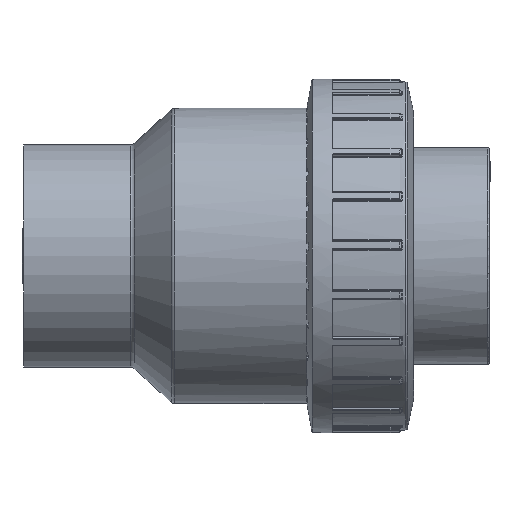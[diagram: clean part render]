
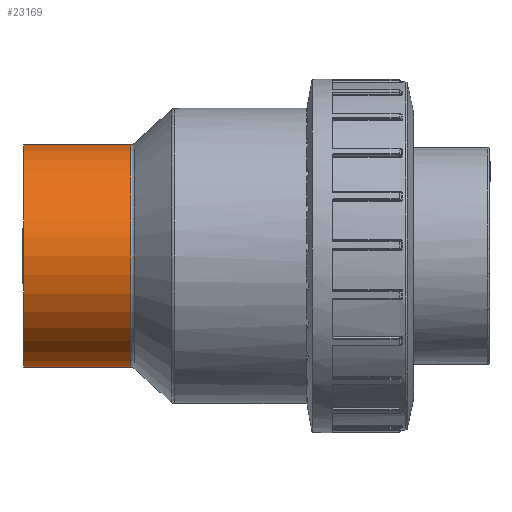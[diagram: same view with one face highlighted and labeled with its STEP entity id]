
A CAD part, front view. The second image highlights one B-rep face of the part: STEP entity #23169.
In plain terms, the highlighted cylindrical face has radius 65.8 mm (diameter 131.6 mm), a full revolution.
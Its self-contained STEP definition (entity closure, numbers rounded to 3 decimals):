
#539=FACE_BOUND('',#4220,.T.);
#704=CIRCLE('',#24790,65.8);
#707=CIRCLE('',#24795,65.8);
#2761=FACE_OUTER_BOUND('',#4219,.T.);
#4219=EDGE_LOOP('',(#15747));
#4220=EDGE_LOOP('',(#15748));
#9790=VERTEX_POINT('',#36386);
#9793=VERTEX_POINT('',#36394);
#12110=EDGE_CURVE('',#9790,#9790,#704,.T.);
#12113=EDGE_CURVE('',#9793,#9793,#707,.T.);
#15747=ORIENTED_EDGE('',*,*,#12113,.T.);
#15748=ORIENTED_EDGE('',*,*,#12110,.F.);
#22848=CYLINDRICAL_SURFACE('',#24794,65.8);
#23169=ADVANCED_FACE('',(#2761,#539),#22848,.T.);
#24790=AXIS2_PLACEMENT_3D('',#36387,#27278,#27279);
#24794=AXIS2_PLACEMENT_3D('',#36393,#27286,#27287);
#24795=AXIS2_PLACEMENT_3D('',#36395,#27288,#27289);
#27278=DIRECTION('center_axis',(1.,0.,0.));
#27279=DIRECTION('ref_axis',(0.,-1.,0.));
#27286=DIRECTION('center_axis',(1.,0.,0.));
#27287=DIRECTION('ref_axis',(0.,1.,0.));
#27288=DIRECTION('center_axis',(1.,0.,0.));
#27289=DIRECTION('ref_axis',(0.,0.,-1.));
#36386=CARTESIAN_POINT('',(-45.548,65.8,0.));
#36387=CARTESIAN_POINT('Origin',(-45.548,0.,0.));
#36393=CARTESIAN_POINT('Origin',(-76.635,0.,0.));
#36394=CARTESIAN_POINT('',(-108.885,65.8,0.));
#36395=CARTESIAN_POINT('Origin',(-108.885,0.,0.));
